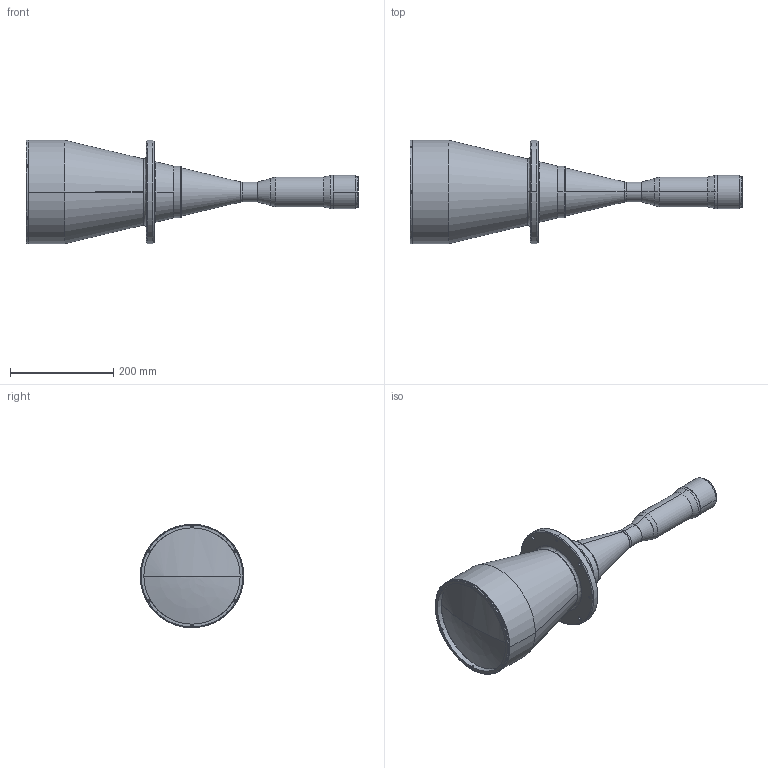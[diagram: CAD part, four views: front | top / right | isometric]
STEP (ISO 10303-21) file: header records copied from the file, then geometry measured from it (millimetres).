
FILE_DESCRIPTION(('LS-TCL-0213'),'2;1');
FILE_NAME('LS-TCL-0213.stp','2026-10-15T21:54:41',('LumaSpec Vision'),('LumaSpec Vision'),'LumaSpec Vision','LumaSpec Vision','');
FILE_SCHEMA(('AUTOMOTIVE_DESIGN { 1 0 10303 214 1 1 1 1 }'));
Length unit declared in the file: millimetre
Products named in the file (181): LumaSpec Vision
Assembly tree (180 placements, depth 2):
  LumaSpec Vision
    LumaSpec Vision
    LumaSpec Vision
    LumaSpec Vision
    LumaSpec Vision
    LumaSpec Vision
    LumaSpec Vision
    LumaSpec Vision
    LumaSpec Vision
    LumaSpec Vision
    LumaSpec Vision
    LumaSpec Vision
    LumaSpec Vision
    LumaSpec Vision
    LumaSpec Vision
    LumaSpec Vision
    LumaSpec Vision
    LumaSpec Vision
    LumaSpec Vision
    LumaSpec Vision
    LumaSpec Vision
    LumaSpec Vision
    LumaSpec Vision
    LumaSpec Vision
    LumaSpec Vision
    LumaSpec Vision
    LumaSpec Vision
    LumaSpec Vision
    LumaSpec Vision
    LumaSpec Vision
    LumaSpec Vision
    LumaSpec Vision
    LumaSpec Vision
    LumaSpec Vision
    LumaSpec Vision
    LumaSpec Vision
    LumaSpec Vision
    LumaSpec Vision
    LumaSpec Vision
    LumaSpec Vision
    LumaSpec Vision
    LumaSpec Vision
    LumaSpec Vision
    LumaSpec Vision
    LumaSpec Vision
    LumaSpec Vision
    LumaSpec Vision
    LumaSpec Vision
    LumaSpec Vision
    LumaSpec Vision
    LumaSpec Vision
    LumaSpec Vision
    LumaSpec Vision
    LumaSpec Vision
    LumaSpec Vision
    LumaSpec Vision
    LumaSpec Vision
    LumaSpec Vision
    LumaSpec Vision
    LumaSpec Vision
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Bounding box: 641.82 x 200 x 200 mm (x, y, z)
Surface area: 319405.8 mm2 (no closed solid volume)
Topology: 0 solids, 180 shells, 180 faces, 3322 edges, 3319 vertices
Faces by surface type: bspline 93, revolution 87
Entity records: 55223 total; most frequent: CARTESIAN_POINT 22397, B_SPLINE_CURVE_WITH_KNOTS 5924, ORIENTED_EDGE 3319, EDGE_CURVE 3319, VERTEX_POINT 3319, SURFACE_CURVE 3319, PCURVE 3319, DEFINITIONAL_REPRESENTATION 3319
